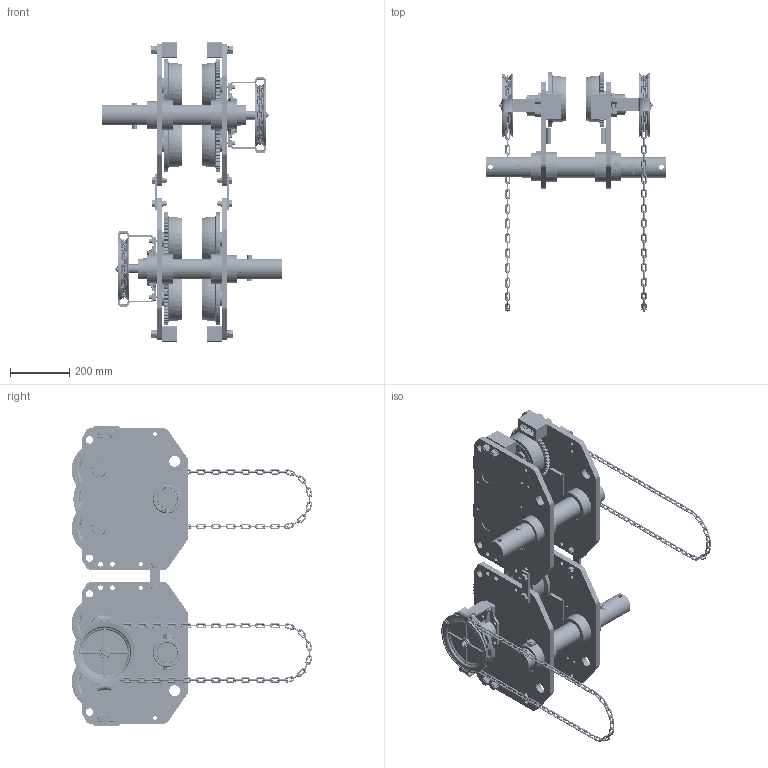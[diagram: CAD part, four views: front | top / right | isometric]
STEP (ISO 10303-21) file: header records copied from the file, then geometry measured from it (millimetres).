
FILE_DESCRIPTION (( 'STEP AP214' ), '1' );
FILE_NAME ('GTS200.STEP', '2026-08-17T18:31:20', ( '' ), ( '' ), 'SwSTEP 2.0', 'SolidWorks 2026', '' );
FILE_SCHEMA (( 'AUTOMOTIVE_DESIGN' ));
Length unit declared in the file: inch
Products named in the file (43): M6SE100S9114; 9047140_9047140; 9093439_9093439; 9012713_9012713; MS105150; HCCF005; T3G123AM075; T3GA1009102; 9012711_9012711; 90912156_90912156; 9047130_9047130; T3GA1009101; 6308Z Bearing; MS164075; T3GA1009123; T3GA1009125; T3GA1009112; T3GA1009111; 9091272_9091272; MS115075_MS115075; T3G151075_T3G151075; T3GC1009127; 9093433_9093433; GTS200; T3G1102075; T3GB1005112; T3G154075_T3G154075; M6SE100S9113; T3GA1009103; 9009436_9009436; T3GA1005111; MS104075; 9012515_9012515; 9012715_9012715; MS161100; J1SR000-00090_J1SR000-00090; MS106150; 9000506; T3GA1009118; T3GC1009128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
Assembly tree (264 placements, depth 3):
  GTS200
    T3GA1005111  x2
      T3GA1009111
      M6SE100S9113
      T3GA1009118
      T3GA1009103
    T3GB1005112  x2
      T3GA1009112
      T3GA1009118
      M6SE100S9114
      T3GA1009103
    MS105150  x2
    MS106150  x4
    9012713_9012713  x4
    9093433_9093433  x4
    T3G1101075  x4
      T3GA1009101
      6308Z Bearing
      J1SR000-00090_J1SR000-00090
    T3G1102075  x4
      T3GA1009102
      6308Z Bearing
      J1SR000-00090_J1SR000-00090
    MS104075  x8
    9047140_9047140  x8
    T5AB0759141  x4
    90912156_90912156  x8
    9012715_9012715  x8
    9093439_9093439  x8
    MS115075_MS115075  x2
    MS161100  x2
    T3G154075_T3G154075  x2
    9009436_9009436  x4
    MS164075  x2
    T3G123AM075  x2
      T3GA1009125
      9000506
      9012711_9012711
      9091272_9091272
      T3GA1009123
      T3GC1009127
      9047130_9047130
      9012515_9012515
      T3G151075_T3G151075
      9009423_9009423
      T3GC1009128
    HCCF005  x144
Bounding box: 609.62 x 814.02 x 1012 mm (x, y, z)
Volume: 25949812.9 mm3; surface area: 4292429.1 mm2
Topology: 286 solids, 334 shells, 12068 faces, 30942 edges, 19708 vertices
Faces by surface type: plane 4812, cylinder 4010, torus 1334, bspline 1112, cone 760, sphere 40
Entity records: 101196 total; most frequent: CARTESIAN_POINT 36240, ORIENTED_EDGE 13690, DIRECTION 12488, EDGE_CURVE 6849, AXIS2_PLACEMENT_3D 4943, VERTEX_POINT 4419, EDGE_LOOP 2876, ADVANCED_FACE 2607
